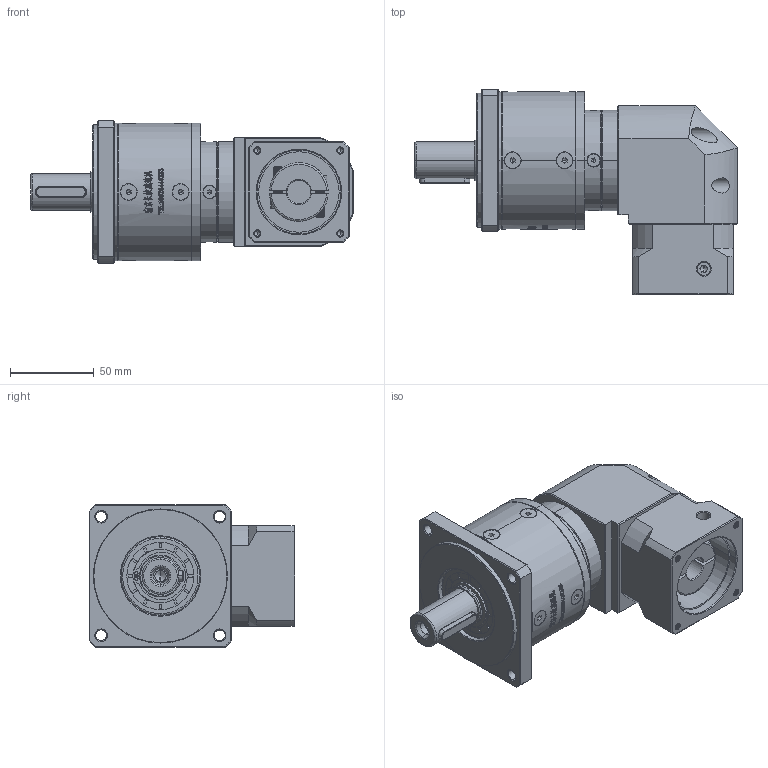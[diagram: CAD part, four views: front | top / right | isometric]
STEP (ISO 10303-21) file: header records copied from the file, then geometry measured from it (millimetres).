
FILE_DESCRIPTION (( 'STEP AP214' ), '1' );
FILE_NAME ('ZFR80-D22-L2-14-50-70-M4.step', '2022-05-08T14:53:42', ( '' ), ( 'Microsoft' ), 'SwSTEP 2.0', 'SolidWorks 2016', '' );
FILE_SCHEMA (( 'AUTOMOTIVE_DESIGN' ));
Length unit declared in the file: millimetre
Products named in the file (1): ZFR80-D22-L2-14-50-70-M4
Bounding box: 192.5 x 122.7 x 85 mm (x, y, z)
Volume: 787326.9 mm3; surface area: 102585.2 mm2
Topology: 17 solids, 18 shells, 3069 faces, 8155 edges, 5243 vertices
Faces by surface type: plane 1601, bspline 620, cylinder 460, cone 380, torus 8
Entity records: 163466 total; most frequent: CARTESIAN_POINT 58855, ORIENTED_EDGE 16218, DIRECTION 12306, EDGE_CURVE 8109, VERTEX_POINT 5243, VECTOR 4968, LINE 4968, AXIS2_PLACEMENT_3D 3669
